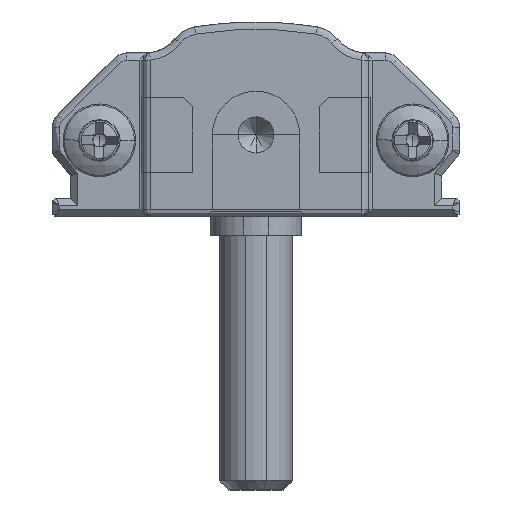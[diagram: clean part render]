
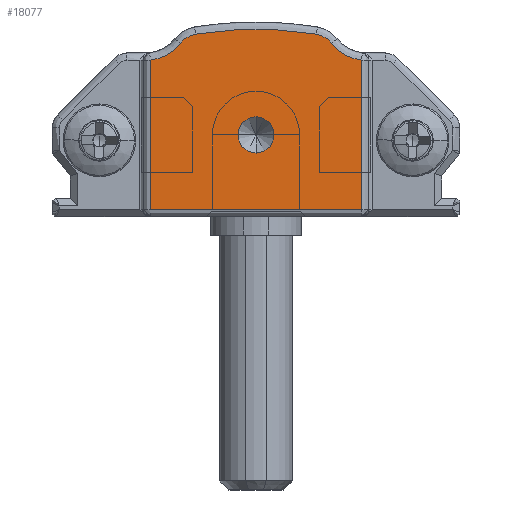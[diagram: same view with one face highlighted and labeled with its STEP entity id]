
A CAD part, front view. The second image highlights one B-rep face of the part: STEP entity #18077.
In plain terms, the highlighted planar face has unit normal (0, -1, 0).
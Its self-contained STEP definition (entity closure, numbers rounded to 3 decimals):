
#35 = AXIS2_PLACEMENT_3D ( 'NONE', #45710, #31926, #16490 ) ;
#795 = CARTESIAN_POINT ( 'NONE',  ( 11.2, -15., -10.376 ) ) ;
#823 = ORIENTED_EDGE ( 'NONE', *, *, #33358, .T. ) ;
#995 = CIRCLE ( 'NONE', #2524, 1.3 ) ;
#1007 = DIRECTION ( 'NONE',  ( 0., 0., -1. ) ) ;
#1273 = ORIENTED_EDGE ( 'NONE', *, *, #38581, .T. ) ;
#1535 = DIRECTION ( 'NONE',  ( 0., 0., -1. ) ) ;
#1991 = CARTESIAN_POINT ( 'NONE',  ( 17., -15., 0.4 ) ) ;
#2478 = AXIS2_PLACEMENT_3D ( 'NONE', #28095, #45404, #10242 ) ;
#2524 = AXIS2_PLACEMENT_3D ( 'NONE', #3623, #4074, #3153 ) ;
#3153 = DIRECTION ( 'NONE',  ( 0., 0., -1. ) ) ;
#3452 = EDGE_LOOP ( 'NONE', ( #20750, #7840 ) ) ;
#3623 = CARTESIAN_POINT ( 'NONE',  ( 8.1, -15., 8.75 ) ) ;
#4074 = DIRECTION ( 'NONE',  ( 0., -1., 0. ) ) ;
#4978 = VERTEX_POINT ( 'NONE', #29148 ) ;
#5267 = CARTESIAN_POINT ( 'NONE',  ( 17., -15., 0.4 ) ) ;
#5657 = CIRCLE ( 'NONE', #14735, 1.3 ) ;
#5799 = CARTESIAN_POINT ( 'NONE',  ( 7.068, -15., 9.541 ) ) ;
#6087 = ORIENTED_EDGE ( 'NONE', *, *, #45010, .T. ) ;
#6738 = DIRECTION ( 'NONE',  ( 0., 0., -1. ) ) ;
#7362 = CARTESIAN_POINT ( 'NONE',  ( 7.892, -15., 10.034 ) ) ;
#7840 = ORIENTED_EDGE ( 'NONE', *, *, #39269, .F. ) ;
#8498 = VERTEX_POINT ( 'NONE', #7362 ) ;
#8601 = VERTEX_POINT ( 'NONE', #34346 ) ;
#8855 = CARTESIAN_POINT ( 'NONE',  ( 11.2, -15., 4.5 ) ) ;
#9207 = CARTESIAN_POINT ( 'NONE',  ( 22.15, -15., 3.606 ) ) ;
#10242 = DIRECTION ( 'NONE',  ( 0., 0., -1. ) ) ;
#11450 = DIRECTION ( 'NONE',  ( 0., -1., 0. ) ) ;
#11531 = ORIENTED_EDGE ( 'NONE', *, *, #18009, .T. ) ;
#12557 = CIRCLE ( 'NONE', #39067, 1. ) ;
#12790 = DIRECTION ( 'NONE',  ( 0., 0., -1. ) ) ;
#13009 = CARTESIAN_POINT ( 'NONE',  ( 11.2, -15., 5.5 ) ) ;
#14455 = VECTOR ( 'NONE', #6738, 1000. ) ;
#14476 = VERTEX_POINT ( 'NONE', #5267 ) ;
#14735 = AXIS2_PLACEMENT_3D ( 'NONE', #37593, #22224, #44500 ) ;
#16490 = DIRECTION ( 'NONE',  ( 0., 0., -1. ) ) ;
#16915 = VERTEX_POINT ( 'NONE', #5799 ) ;
#18009 = EDGE_CURVE ( 'NONE', #8498, #16915, #995, .T. ) ;
#18077 = ADVANCED_FACE ( 'NONE', ( #41741, #29950 ), #33462, .T. ) ;
#18938 = VECTOR ( 'NONE', #27151, 1000. ) ;
#18956 = CIRCLE ( 'NONE', #35, 2.4 ) ;
#19463 = VERTEX_POINT ( 'NONE', #31900 ) ;
#20750 = ORIENTED_EDGE ( 'NONE', *, *, #38068, .F. ) ;
#21942 = CARTESIAN_POINT ( 'NONE',  ( 17., -15., 8.612 ) ) ;
#22224 = DIRECTION ( 'NONE',  ( 0., -1., 0. ) ) ;
#24473 = CIRCLE ( 'NONE', #2478, 2.4 ) ;
#24518 = AXIS2_PLACEMENT_3D ( 'NONE', #8855, #41875, #1535 ) ;
#25477 = CIRCLE ( 'NONE', #38297, 20.676 ) ;
#26210 = EDGE_CURVE ( 'NONE', #8601, #38776, #24473, .T. ) ;
#26410 = DIRECTION ( 'NONE',  ( 0., -1., 0. ) ) ;
#27151 = DIRECTION ( 'NONE',  ( 1., 0., 0. ) ) ;
#27298 = CARTESIAN_POINT ( 'NONE',  ( 11.2, -15., 4.5 ) ) ;
#27623 = ORIENTED_EDGE ( 'NONE', *, *, #35078, .T. ) ;
#28095 = CARTESIAN_POINT ( 'NONE',  ( 17.238, -15., 11. ) ) ;
#28668 = EDGE_LOOP ( 'NONE', ( #6087, #44536, #1273, #823, #11531, #27623, #40613, #46377 ) ) ;
#28913 = EDGE_CURVE ( 'NONE', #19463, #14476, #41856, .T. ) ;
#29054 = CARTESIAN_POINT ( 'NONE',  ( 15.332, -15., 9.541 ) ) ;
#29148 = CARTESIAN_POINT ( 'NONE',  ( 11.2, -15., 3.5 ) ) ;
#29541 = EDGE_CURVE ( 'NONE', #31058, #19463, #39313, .T. ) ;
#29950 = FACE_BOUND ( 'NONE', #3452, .T. ) ;
#31058 = VERTEX_POINT ( 'NONE', #44490 ) ;
#31900 = CARTESIAN_POINT ( 'NONE',  ( 5.4, -15., 0.4 ) ) ;
#31926 = DIRECTION ( 'NONE',  ( 0., 1., 0. ) ) ;
#32800 = LINE ( 'NONE', #21942, #37784 ) ;
#33358 = EDGE_CURVE ( 'NONE', #43897, #8498, #25477, .T. ) ;
#33462 = PLANE ( 'NONE',  #35815 ) ;
#34346 = CARTESIAN_POINT ( 'NONE',  ( 17., -15., 8.612 ) ) ;
#35078 = EDGE_CURVE ( 'NONE', #16915, #31058, #18956, .T. ) ;
#35744 = CARTESIAN_POINT ( 'NONE',  ( 5.4, -15., 0.4 ) ) ;
#35815 = AXIS2_PLACEMENT_3D ( 'NONE', #9207, #26410, #1007 ) ;
#36130 = DIRECTION ( 'NONE',  ( 0., 0., -1. ) ) ;
#37593 = CARTESIAN_POINT ( 'NONE',  ( 14.3, -15., 8.75 ) ) ;
#37784 = VECTOR ( 'NONE', #46863, 1000. ) ;
#38068 = EDGE_CURVE ( 'NONE', #4978, #39364, #44935, .T. ) ;
#38297 = AXIS2_PLACEMENT_3D ( 'NONE', #795, #11450, #36130 ) ;
#38581 = EDGE_CURVE ( 'NONE', #38776, #43897, #5657, .T. ) ;
#38776 = VERTEX_POINT ( 'NONE', #29054 ) ;
#39067 = AXIS2_PLACEMENT_3D ( 'NONE', #27298, #41062, #12790 ) ;
#39269 = EDGE_CURVE ( 'NONE', #39364, #4978, #12557, .T. ) ;
#39313 = LINE ( 'NONE', #35744, #14455 ) ;
#39364 = VERTEX_POINT ( 'NONE', #13009 ) ;
#40613 = ORIENTED_EDGE ( 'NONE', *, *, #29541, .T. ) ;
#41062 = DIRECTION ( 'NONE',  ( 0., -1., 0. ) ) ;
#41741 = FACE_OUTER_BOUND ( 'NONE', #28668, .T. ) ;
#41856 = LINE ( 'NONE', #1991, #18938 ) ;
#41875 = DIRECTION ( 'NONE',  ( 0., -1., 0. ) ) ;
#42066 = CARTESIAN_POINT ( 'NONE',  ( 14.508, -15., 10.034 ) ) ;
#43897 = VERTEX_POINT ( 'NONE', #42066 ) ;
#44490 = CARTESIAN_POINT ( 'NONE',  ( 5.4, -15., 8.612 ) ) ;
#44500 = DIRECTION ( 'NONE',  ( 0., 0., -1. ) ) ;
#44536 = ORIENTED_EDGE ( 'NONE', *, *, #26210, .T. ) ;
#44935 = CIRCLE ( 'NONE', #24518, 1. ) ;
#45010 = EDGE_CURVE ( 'NONE', #14476, #8601, #32800, .T. ) ;
#45404 = DIRECTION ( 'NONE',  ( 0., 1., 0. ) ) ;
#45710 = CARTESIAN_POINT ( 'NONE',  ( 5.162, -15., 11. ) ) ;
#46377 = ORIENTED_EDGE ( 'NONE', *, *, #28913, .T. ) ;
#46863 = DIRECTION ( 'NONE',  ( 0., 0., 1. ) ) ;
